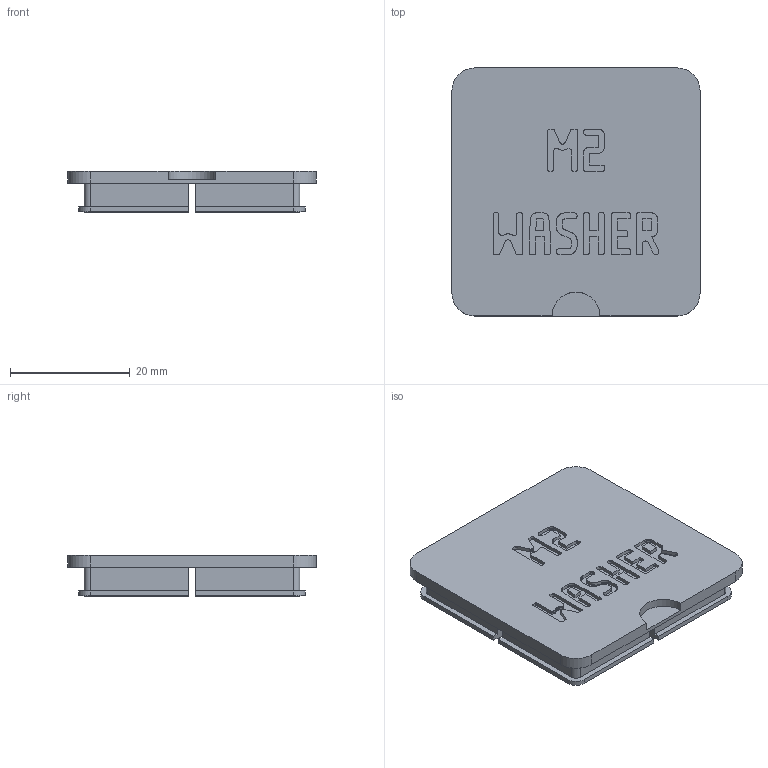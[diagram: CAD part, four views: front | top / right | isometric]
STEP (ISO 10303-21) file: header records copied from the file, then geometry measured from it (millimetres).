
FILE_DESCRIPTION(('Open CASCADE Model'),'2;1');
FILE_NAME('Open CASCADE Shape Model','2026-11-03T17:10:30',('Author'),( 'Open CASCADE'),'Open CASCADE STEP processor 8.0','build123d', 'Unknown');
FILE_SCHEMA(('AUTOMOTIVE_DESIGN { 1 0 10303 214 1 1 1 1 }'));
Products named in the file (1): COMPOUND
Bounding box: 41.5 x 41.5 x 6.9 mm (x, y, z)
Volume: 4192.4 mm3; surface area: 5525.8 mm2
Topology: 1 solids, 1 shells, 952 faces, 2817 edges, 1878 vertices
Faces by surface type: plane 931, cylinder 21
Entity records: 67726 total; most frequent: CARTESIAN_POINT 11638, DIRECTION 10203, LINE 8203, VECTOR 8203, ORIENTED_EDGE 5634, PCURVE 5634, DEFINITIONAL_REPRESENTATION 5634, EDGE_CURVE 2817
